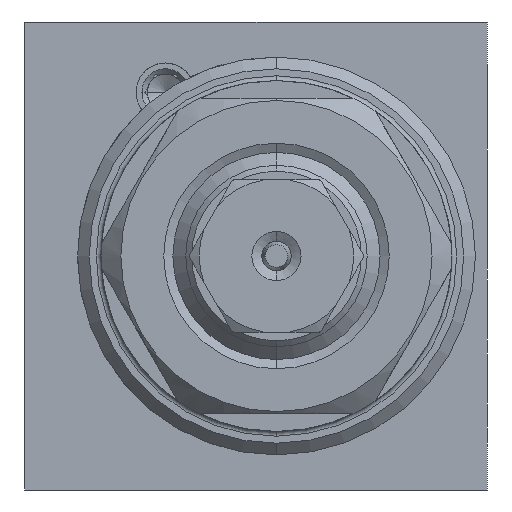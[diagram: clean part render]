
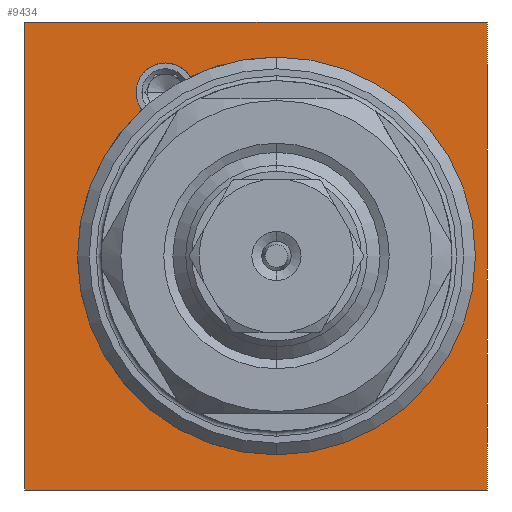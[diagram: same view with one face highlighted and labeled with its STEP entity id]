
A CAD part, left-side view. The second image highlights one B-rep face of the part: STEP entity #9434.
In plain terms, the highlighted planar face has unit normal (-1, 0, 0).
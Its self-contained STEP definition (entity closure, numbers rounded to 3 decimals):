
#370 = VERTEX_POINT ( 'NONE', #14300 ) ;
#612 = DIRECTION ( 'NONE',  ( 0., 0., 1. ) ) ;
#1238 = CARTESIAN_POINT ( 'NONE',  ( 0., 19.75, -20. ) ) ;
#1682 = AXIS2_PLACEMENT_3D ( 'NONE', #16745, #8662, #612 ) ;
#1864 = AXIS2_PLACEMENT_3D ( 'NONE', #2838, #12267, #4199 ) ;
#1900 = CARTESIAN_POINT ( 'NONE',  ( 0., -1.75, 0. ) ) ;
#1945 = VERTEX_POINT ( 'NONE', #13403 ) ;
#2009 = DIRECTION ( 'NONE',  ( 0., -1., 0. ) ) ;
#2188 = CARTESIAN_POINT ( 'NONE',  ( 0., 7.75, 14. ) ) ;
#2618 = CARTESIAN_POINT ( 'NONE',  ( 0., -1.75, 0. ) ) ;
#2654 = EDGE_CURVE ( 'NONE', #11932, #370, #6768, .T. ) ;
#2655 = VERTEX_POINT ( 'NONE', #12747 ) ;
#2726 = VECTOR ( 'NONE', #2009, 1000. ) ;
#2772 = CARTESIAN_POINT ( 'NONE',  ( 0., 7.75, 14. ) ) ;
#2818 = VERTEX_POINT ( 'NONE', #15787 ) ;
#2838 = CARTESIAN_POINT ( 'NONE',  ( 0., -1.75, 0. ) ) ;
#3265 = DIRECTION ( 'NONE',  ( 0., 0., 1. ) ) ;
#3562 = DIRECTION ( 'NONE',  ( 0., 0., 1. ) ) ;
#3990 = DIRECTION ( 'NONE',  ( 0., 0., 1. ) ) ;
#4103 = VECTOR ( 'NONE', #16635, 1000. ) ;
#4136 = DIRECTION ( 'NONE',  ( 0., 0., 1. ) ) ;
#4199 = DIRECTION ( 'NONE',  ( 0., 0., 1. ) ) ;
#4556 = CIRCLE ( 'NONE', #7802, 2.5 ) ;
#4578 = CARTESIAN_POINT ( 'NONE',  ( 0., 19.75, 20. ) ) ;
#5169 = ORIENTED_EDGE ( 'NONE', *, *, #7496, .F. ) ;
#5626 = CIRCLE ( 'NONE', #8883, 2.5 ) ;
#5796 = ORIENTED_EDGE ( 'NONE', *, *, #2654, .F. ) ;
#5868 = CARTESIAN_POINT ( 'NONE',  ( 0., -19.75, -20. ) ) ;
#5911 = PLANE ( 'NONE',  #1682 ) ;
#5964 = ORIENTED_EDGE ( 'NONE', *, *, #13631, .F. ) ;
#6069 = LINE ( 'NONE', #4578, #6924 ) ;
#6229 = CARTESIAN_POINT ( 'NONE',  ( 0., -19.75, 20. ) ) ;
#6396 = FACE_BOUND ( 'NONE', #9095, .T. ) ;
#6768 = LINE ( 'NONE', #6229, #2726 ) ;
#6924 = VECTOR ( 'NONE', #7485, 1000. ) ;
#7328 = EDGE_CURVE ( 'NONE', #1945, #2818, #10515, .T. ) ;
#7485 = DIRECTION ( 'NONE',  ( 0., 0., 1. ) ) ;
#7496 = EDGE_CURVE ( 'NONE', #10533, #11288, #5626, .T. ) ;
#7648 = EDGE_CURVE ( 'NONE', #2818, #10533, #8579, .T. ) ;
#7723 = EDGE_LOOP ( 'NONE', ( #7749, #13831, #5796, #5964 ) ) ;
#7727 = ORIENTED_EDGE ( 'NONE', *, *, #7328, .F. ) ;
#7749 = ORIENTED_EDGE ( 'NONE', *, *, #14228, .F. ) ;
#7802 = AXIS2_PLACEMENT_3D ( 'NONE', #2772, #12205, #4136 ) ;
#8579 = CIRCLE ( 'NONE', #1864, 17. ) ;
#8662 = DIRECTION ( 'NONE',  ( -1., 0., 0. ) ) ;
#8883 = AXIS2_PLACEMENT_3D ( 'NONE', #2188, #11626, #3562 ) ;
#8998 = DIRECTION ( 'NONE',  ( 0., 0., -1. ) ) ;
#9095 = EDGE_LOOP ( 'NONE', ( #5169, #10248, #7727, #13042, #16462 ) ) ;
#9302 = EDGE_CURVE ( 'NONE', #11288, #2655, #4556, .T. ) ;
#9434 = ADVANCED_FACE ( 'NONE', ( #6396, #13522 ), #5911, .T. ) ;
#10248 = ORIENTED_EDGE ( 'NONE', *, *, #7648, .F. ) ;
#10254 = EDGE_CURVE ( 'NONE', #370, #13860, #10913, .T. ) ;
#10377 = CARTESIAN_POINT ( 'NONE',  ( 0., 7.75, 16.5 ) ) ;
#10423 = LINE ( 'NONE', #5868, #4103 ) ;
#10495 = VECTOR ( 'NONE', #8998, 1000. ) ;
#10515 = CIRCLE ( 'NONE', #11922, 17. ) ;
#10533 = VERTEX_POINT ( 'NONE', #13934 ) ;
#10913 = LINE ( 'NONE', #17077, #10495 ) ;
#11288 = VERTEX_POINT ( 'NONE', #10377 ) ;
#11331 = DIRECTION ( 'NONE',  ( -1., 0., 0. ) ) ;
#11626 = DIRECTION ( 'NONE',  ( -1., 0., 0. ) ) ;
#11922 = AXIS2_PLACEMENT_3D ( 'NONE', #1900, #11331, #3265 ) ;
#11932 = VERTEX_POINT ( 'NONE', #16410 ) ;
#12062 = DIRECTION ( 'NONE',  ( -1., 0., 0. ) ) ;
#12205 = DIRECTION ( 'NONE',  ( -1., 0., 0. ) ) ;
#12267 = DIRECTION ( 'NONE',  ( -1., 0., 0. ) ) ;
#12747 = CARTESIAN_POINT ( 'NONE',  ( 0., 9.759, 12.512 ) ) ;
#13042 = ORIENTED_EDGE ( 'NONE', *, *, #13923, .F. ) ;
#13403 = CARTESIAN_POINT ( 'NONE',  ( 0., -1.75, -17. ) ) ;
#13522 = FACE_OUTER_BOUND ( 'NONE', #7723, .T. ) ;
#13631 = EDGE_CURVE ( 'NONE', #17170, #11932, #6069, .T. ) ;
#13831 = ORIENTED_EDGE ( 'NONE', *, *, #10254, .F. ) ;
#13860 = VERTEX_POINT ( 'NONE', #14535 ) ;
#13923 = EDGE_CURVE ( 'NONE', #2655, #1945, #16316, .T. ) ;
#13934 = CARTESIAN_POINT ( 'NONE',  ( 0., 5.625, 15.317 ) ) ;
#14228 = EDGE_CURVE ( 'NONE', #13860, #17170, #10423, .T. ) ;
#14300 = CARTESIAN_POINT ( 'NONE',  ( 0., -19.75, 20. ) ) ;
#14535 = CARTESIAN_POINT ( 'NONE',  ( 0., -19.75, -20. ) ) ;
#15787 = CARTESIAN_POINT ( 'NONE',  ( 0., -1.75, 17. ) ) ;
#16182 = AXIS2_PLACEMENT_3D ( 'NONE', #2618, #12062, #3990 ) ;
#16316 = CIRCLE ( 'NONE', #16182, 17. ) ;
#16410 = CARTESIAN_POINT ( 'NONE',  ( 0., 19.75, 20. ) ) ;
#16462 = ORIENTED_EDGE ( 'NONE', *, *, #9302, .F. ) ;
#16635 = DIRECTION ( 'NONE',  ( 0., 1., 0. ) ) ;
#16745 = CARTESIAN_POINT ( 'NONE',  ( 0., 19.75, -20. ) ) ;
#17077 = CARTESIAN_POINT ( 'NONE',  ( 0., -19.75, 20. ) ) ;
#17170 = VERTEX_POINT ( 'NONE', #1238 ) ;
